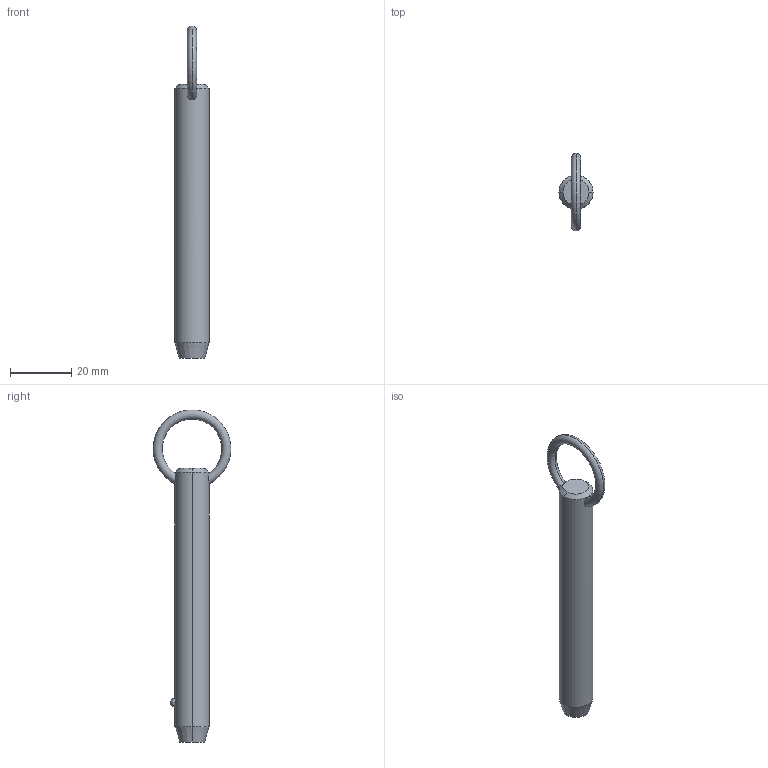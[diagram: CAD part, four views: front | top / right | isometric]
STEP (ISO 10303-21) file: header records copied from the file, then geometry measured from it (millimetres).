
FILE_DESCRIPTION (( 'STEP AP203' ), '1' );
FILE_NAME ('P1250.050-270.step', '2019-07-29T20:33:00', ( '' ), ( '' ), 'SwSTEP 2.0', 'SolidWorks 2017', '' );
FILE_SCHEMA (( 'CONFIG_CONTROL_DESIGN' ));
Length unit declared in the file: millimetre
Products named in the file (1): P1250.050-270
Bounding box: 11.1 x 25.32 x 108.15 mm (x, y, z)
Volume: 8914.5 mm3; surface area: 3763.2 mm2
Topology: 1 solids, 1 shells, 12 faces, 28 edges, 17 vertices
Faces by surface type: cone 4, torus 2, sphere 2, cylinder 2, plane 2
Entity records: 523 total; most frequent: CARTESIAN_POINT 190, DIRECTION 56, ORIENTED_EDGE 48, AXIS2_PLACEMENT_3D 25, EDGE_CURVE 24, VERTEX_POINT 15, EDGE_LOOP 15, FACE_OUTER_BOUND 12
